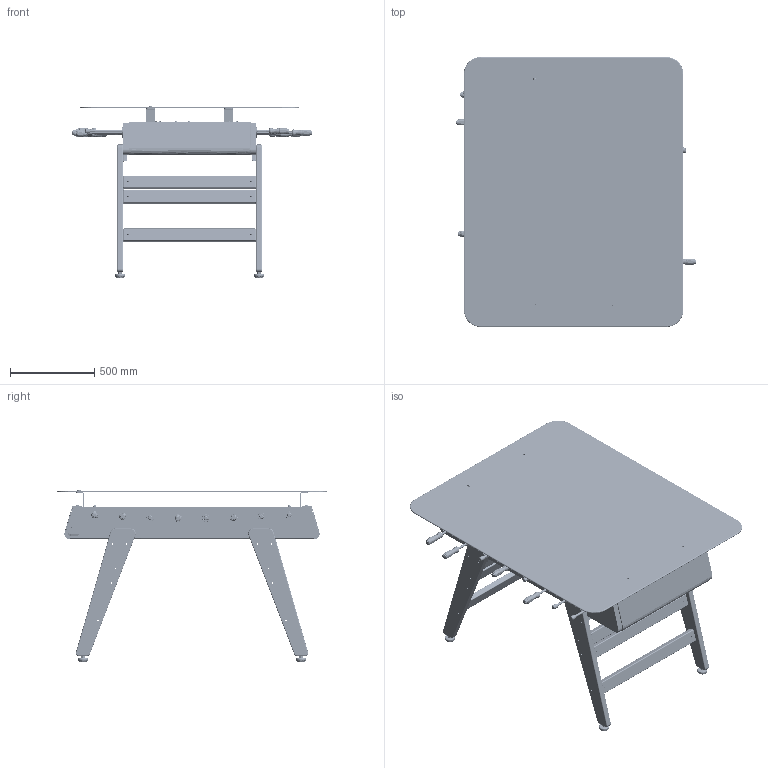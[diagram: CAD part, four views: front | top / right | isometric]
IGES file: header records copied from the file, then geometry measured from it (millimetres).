
Start section: START RECORD GO HERE.
Global section: file name: dining_rs#3_wood_dining_rectangular.igs; native system: DASSAULT SYSTEMES CATIA Version 5-6 Release 2017 - www.3ds.com; preprocessor: V5-6R2017_5.27.0.0.10-19-2016.20.00; author: ingenieria; organization: RAFA-PC; date: 20200804.165259; units: millimetre
Bounding box: 1422.81 x 1600 x 1019.37 mm (x, y, z)
Surface area: 15974469.7 mm2 (no closed solid volume)
Topology: 0 solids, 0 shells, 9902 faces, 47088 edges, 46912 vertices
Faces by surface type: revolution 5034, plane 4468, bspline 400
